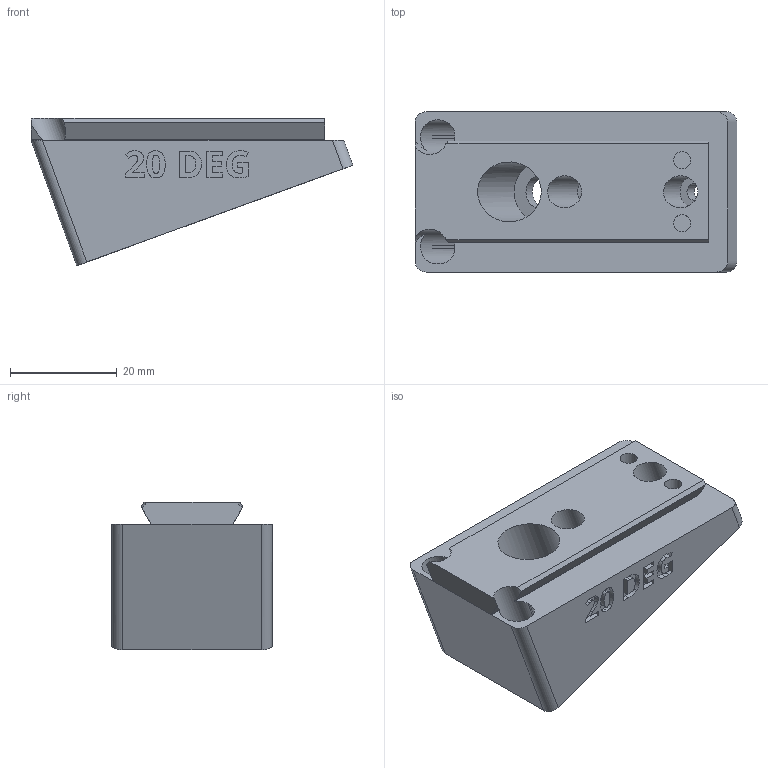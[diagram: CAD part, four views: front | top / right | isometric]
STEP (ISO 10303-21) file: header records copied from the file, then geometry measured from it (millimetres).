
FILE_DESCRIPTION(/* description */ ('STEP AP242 Edition 2','CAx-IF Rec.Pracs.---Representation and Presentation of Product Manufacturing Information (PMI)---4.0---2014-10-13','CAx-IF Rec.Pracs.---3D Tessellated Geometry---0.4---2014-09-14','2;1','CAx-IF Rec.Pracs.---User Defined Attributes---1.5---2016-08-15'),/* implementation_level */ '2;1');
FILE_NAME(/* name */ 'Camera Wedges - CAMERA MOUNTING WEDGE, POS, 20 DEG',/* time_stamp */ '2026-07-08T20:38:26Z',/* author */ (''),/* organization */ (''),/* preprocessor_version */ 'ST-DEVELOPER v20',/* originating_system */ 'ONSHAPE BY PTC INC, 1.217',/* authorisation */ ' ');
FILE_SCHEMA (('AP242_MANAGED_MODEL_BASED_3D_ENGINEERING_MIM_LF { 1 0 10303 442 3 1 4 }'));
Length unit declared in the file: metre
Products named in the file (1): CAMERA MOUNTING WEDGE, POS, 20 DEG
Bounding box: 60.24 x 30 x 27.61 mm (x, y, z)
Volume: 23629.3 mm3; surface area: 9085.8 mm2
Topology: 1 solids, 1 shells, 255 faces, 700 edges, 467 vertices
Faces by surface type: plane 127, bspline 76, cylinder 52
Full cylindrical faces by diameter (mm): 3.2 x4, 6 x2, 6.4 x1, 11.2 x1
Entity records: 8317 total; most frequent: CARTESIAN_POINT 2245, ORIENTED_EDGE 1378, DIRECTION 1013, EDGE_CURVE 689, VERTEX_POINT 464, LINE 421, VECTOR 421, AXIS2_PLACEMENT_3D 296
